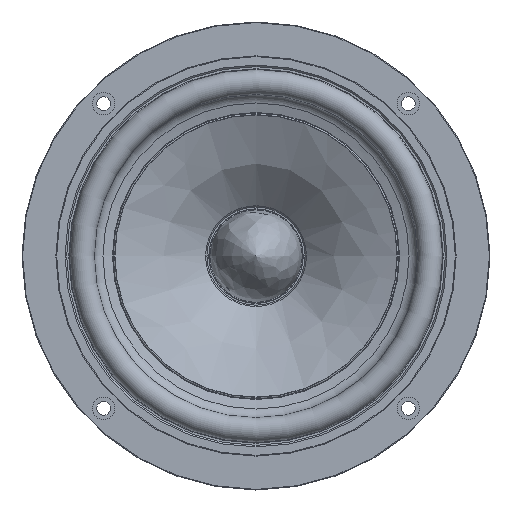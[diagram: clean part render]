
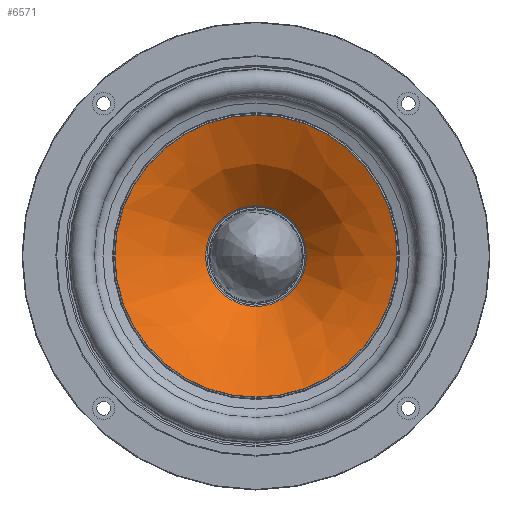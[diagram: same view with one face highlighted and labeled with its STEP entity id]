
A CAD part, top view. The second image highlights one B-rep face of the part: STEP entity #6571.
In plain terms, the highlighted free-form (B-spline) face has degree [2, 2] with [3, 9] control points.
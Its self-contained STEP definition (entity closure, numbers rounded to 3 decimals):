
#55=(
BOUNDED_SURFACE()
B_SPLINE_SURFACE(2,2,((#13616,#13617,#13618,#13619,#13620,#13621,#13622,
#13623,#13624),(#13625,#13626,#13627,#13628,#13629,#13630,#13631,#13632,
#13633),(#13634,#13635,#13636,#13637,#13638,#13639,#13640,#13641,#13642)),
 .UNSPECIFIED.,.F.,.T.,.F.)
B_SPLINE_SURFACE_WITH_KNOTS((3,3),(3,2,2,2,3),(-2.355,-1.916),
(-3.142,-1.571,0.,1.571,3.142),
 .UNSPECIFIED.)
GEOMETRIC_REPRESENTATION_ITEM()
RATIONAL_B_SPLINE_SURFACE(((1.,0.707,1.,0.707,1.,
0.707,1.,0.707,1.),(0.976,0.69,
0.976,0.69,0.976,0.69,0.976,
0.69,0.976),(1.,0.707,1.,0.707,
1.,0.707,1.,0.707,1.)))
REPRESENTATION_ITEM('')
SURFACE()
);
#736=CIRCLE('',#7228,45.821);
#738=CIRCLE('',#7231,80.);
#739=CIRCLE('',#7232,16.368);
#1242=FACE_OUTER_BOUND('',#1661,.T.);
#1661=EDGE_LOOP('',(#5683,#5684,#5685,#5686));
#3033=VERTEX_POINT('',#13609);
#3035=VERTEX_POINT('',#13643);
#3947=EDGE_CURVE('',#3033,#3033,#736,.T.);
#3950=EDGE_CURVE('',#3033,#3035,#738,.T.);
#3951=EDGE_CURVE('',#3035,#3035,#739,.T.);
#5683=ORIENTED_EDGE('',*,*,#3947,.F.);
#5684=ORIENTED_EDGE('',*,*,#3950,.T.);
#5685=ORIENTED_EDGE('',*,*,#3951,.T.);
#5686=ORIENTED_EDGE('',*,*,#3950,.F.);
#6571=ADVANCED_FACE('',(#1242),#55,.F.);
#7228=AXIS2_PLACEMENT_3D('',#13611,#8887,#8888);
#7231=AXIS2_PLACEMENT_3D('',#13644,#8894,#8895);
#7232=AXIS2_PLACEMENT_3D('',#13645,#8896,#8897);
#8887=DIRECTION('center_axis',(0.,0.,-1.));
#8888=DIRECTION('ref_axis',(-1.,0.,0.));
#8894=DIRECTION('center_axis',(0.,-1.,0.));
#8895=DIRECTION('ref_axis',(1.,0.,0.));
#8896=DIRECTION('center_axis',(0.,0.,-1.));
#8897=DIRECTION('ref_axis',(-1.,0.,0.));
#13609=CARTESIAN_POINT('',(45.821,0.,41.938));
#13611=CARTESIAN_POINT('Origin',(0.,0.,41.938));
#13616=CARTESIAN_POINT('Ctrl Pts',(16.368,0.,
23.271));
#13617=CARTESIAN_POINT('Ctrl Pts',(16.368,-16.368,23.271));
#13618=CARTESIAN_POINT('Ctrl Pts',(0.,-16.368,
23.271));
#13619=CARTESIAN_POINT('Ctrl Pts',(-16.368,-16.368,
23.271));
#13620=CARTESIAN_POINT('Ctrl Pts',(-16.368,0.,
23.271));
#13621=CARTESIAN_POINT('Ctrl Pts',(-16.368,16.368,23.271));
#13622=CARTESIAN_POINT('Ctrl Pts',(0.,16.368,
23.271));
#13623=CARTESIAN_POINT('Ctrl Pts',(16.368,16.368,23.271));
#13624=CARTESIAN_POINT('Ctrl Pts',(16.368,0.,
23.271));
#13625=CARTESIAN_POINT('Ctrl Pts',(29.01,0.,
35.893));
#13626=CARTESIAN_POINT('Ctrl Pts',(29.01,-29.01,35.893));
#13627=CARTESIAN_POINT('Ctrl Pts',(0.,-29.01,
35.893));
#13628=CARTESIAN_POINT('Ctrl Pts',(-29.01,-29.01,
35.893));
#13629=CARTESIAN_POINT('Ctrl Pts',(-29.01,0.,
35.893));
#13630=CARTESIAN_POINT('Ctrl Pts',(-29.01,29.01,35.893));
#13631=CARTESIAN_POINT('Ctrl Pts',(0.,29.01,
35.893));
#13632=CARTESIAN_POINT('Ctrl Pts',(29.01,29.01,35.893));
#13633=CARTESIAN_POINT('Ctrl Pts',(29.01,0.,
35.893));
#13634=CARTESIAN_POINT('Ctrl Pts',(45.821,0.,
41.938));
#13635=CARTESIAN_POINT('Ctrl Pts',(45.821,-45.821,41.938));
#13636=CARTESIAN_POINT('Ctrl Pts',(0.,-45.821,
41.938));
#13637=CARTESIAN_POINT('Ctrl Pts',(-45.821,-45.821,
41.938));
#13638=CARTESIAN_POINT('Ctrl Pts',(-45.821,0.,
41.938));
#13639=CARTESIAN_POINT('Ctrl Pts',(-45.821,45.821,41.938));
#13640=CARTESIAN_POINT('Ctrl Pts',(0.,45.821,
41.938));
#13641=CARTESIAN_POINT('Ctrl Pts',(45.821,45.821,41.938));
#13642=CARTESIAN_POINT('Ctrl Pts',(45.821,0.,
41.938));
#13643=CARTESIAN_POINT('',(16.368,0.,23.271));
#13644=CARTESIAN_POINT('Origin',(72.892,0.,
-33.342));
#13645=CARTESIAN_POINT('Origin',(0.,0.,23.271));
